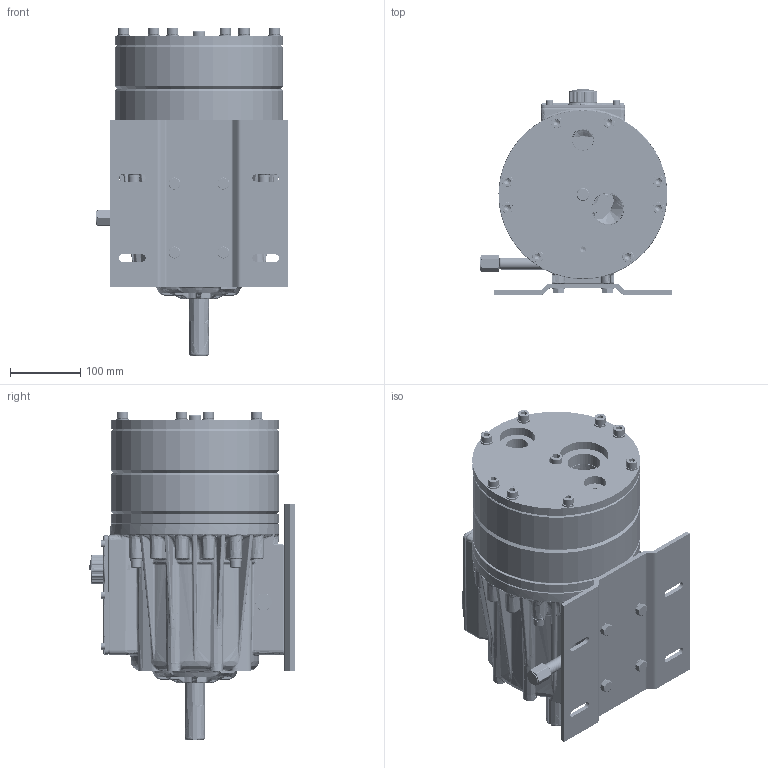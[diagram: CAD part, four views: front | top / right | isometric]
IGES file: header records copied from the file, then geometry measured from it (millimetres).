
Start section: SolidWorks IGES file using analytic representation for surfaces
Global section: file name: Q:\ENG\!!Gary\Outline-Dwgs\Latest-Pump-Adapt-Ki\H25-P-CF.IGS; native system: SolidWorks 2007; preprocessor: SolidWorks 2007; author: garyi; date: 081103.134405; units: inch
Bounding box: 273.28 x 293.87 x 469.4 mm (x, y, z)
Surface area: 1589299.7 mm2 (no closed solid volume)
Topology: 0 solids, 0 shells, 9829 faces, 110454 edges, 110392 vertices
Faces by surface type: revolution 5840, bspline 3989
